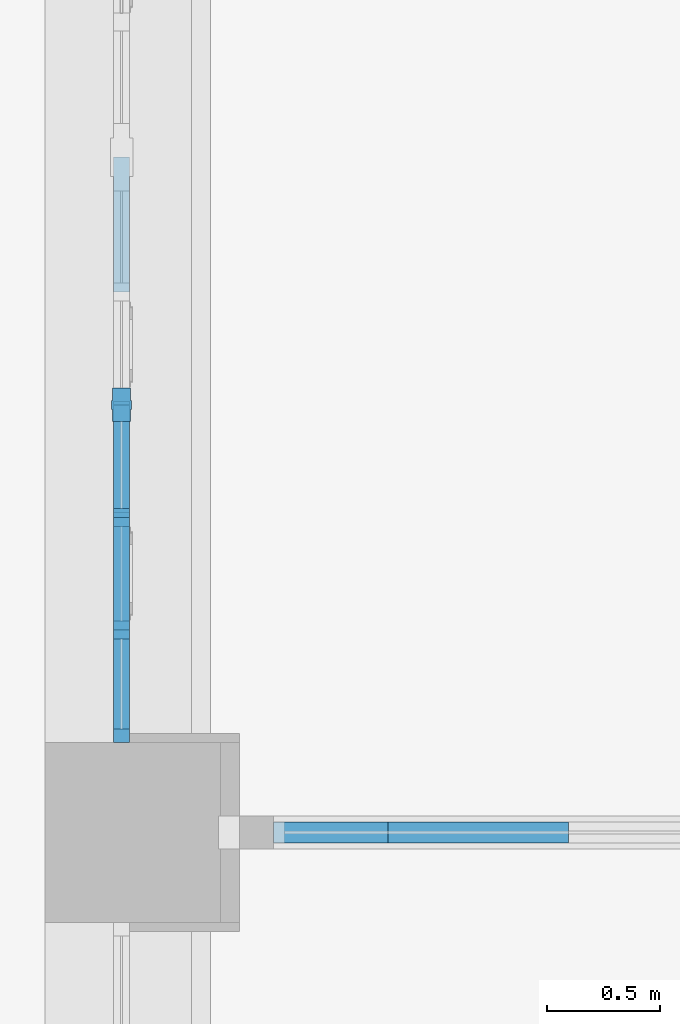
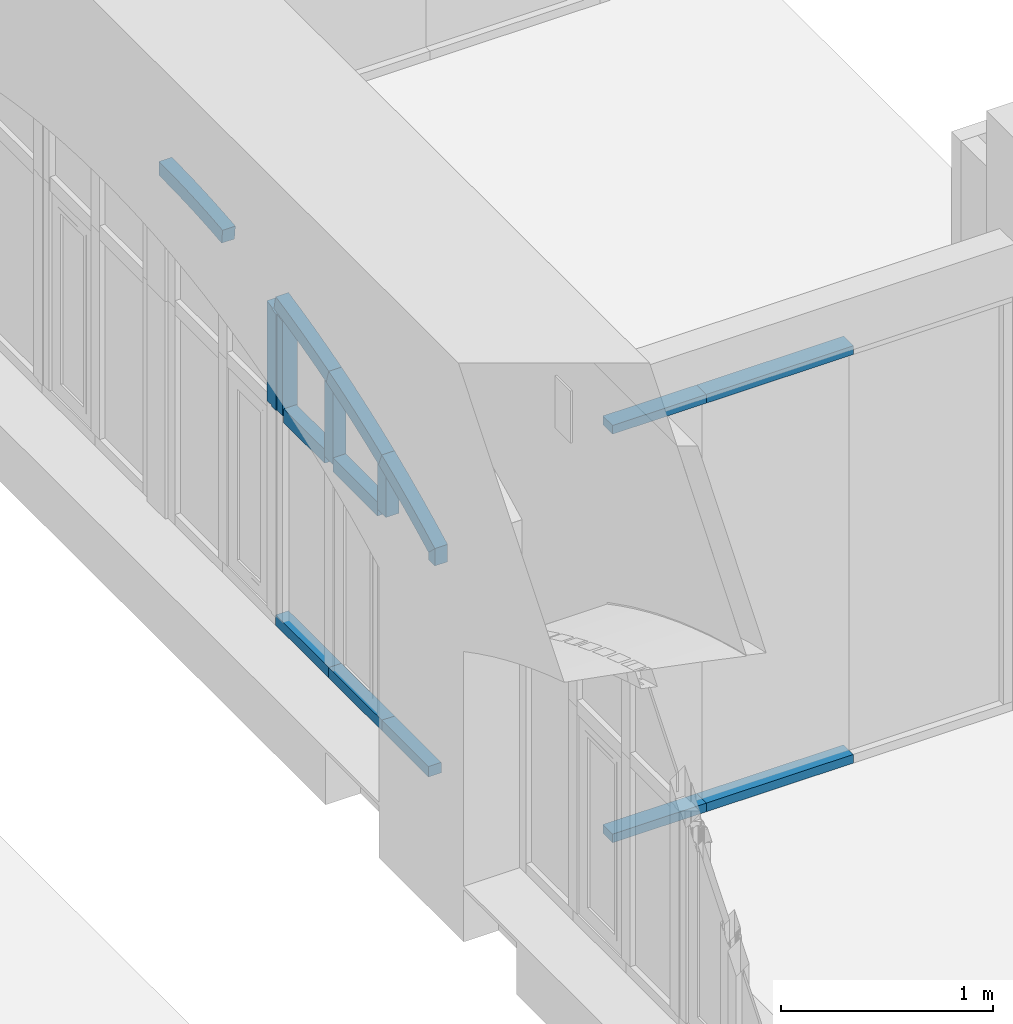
# One storey, part 24 of 88: 17 members, 2 elements without a shape of their own.
"""IFC2X3 building model written with IfcOpenShell, lengths in millimetres."""

from ifc_helpers import new_model, entity, si_unit, converted_unit, derived_unit, direction, frame, frame_2d, origin, place, context, subcontext, project, spatial, polyline, circle_curve, parameter, trimmed, segment, composite_curve, rectangle, outline, extrude, faceted_brep, source, transform, mapped, material, type_object, type_shapes, element, aggregate, save


model = new_model("IFC2X3")

# Units and contexts
model_context = context("Model", 3, precision=0.01, world=origin(), true_north=direction((6.123031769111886e-17, 1.0)))
body_context = subcontext(model_context, "Body", "Model", "MODEL_VIEW")
ifc_project = project(units=[si_unit("LENGTHUNIT", "METRE", prefix="MILLI"), si_unit("AREAUNIT", "SQUARE_METRE"), si_unit("VOLUMEUNIT", "CUBIC_METRE"), converted_unit("PLANEANGLEUNIT", "DEGREE", entity("IfcPlaneAngleMeasure", 0.017453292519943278), si_unit("PLANEANGLEUNIT", "RADIAN"), dimensions=[0, 0, 0, 0, 0, 0, 0]), si_unit("MASSUNIT", "GRAM", prefix="KILO"), derived_unit("MASSDENSITYUNIT", [(si_unit("MASSUNIT", "GRAM", prefix="KILO"), 1), (si_unit("LENGTHUNIT", "METRE"), -3)]), derived_unit("IONCONCENTRATIONUNIT", [(si_unit("MASSUNIT", "GRAM", prefix="KILO"), 1), (si_unit("LENGTHUNIT", "METRE"), -3)]), derived_unit("MOMENTOFINERTIAUNIT", [(si_unit("LENGTHUNIT", "METRE"), 4)]), si_unit("TIMEUNIT", "SECOND"), si_unit("FREQUENCYUNIT", "HERTZ"), si_unit("THERMODYNAMICTEMPERATUREUNIT", "DEGREE_CELSIUS"), derived_unit("THERMALTRANSMITTANCEUNIT", [(si_unit("MASSUNIT", "GRAM", prefix="KILO"), 1), (si_unit("THERMODYNAMICTEMPERATUREUNIT", "KELVIN"), -1), (si_unit("TIMEUNIT", "SECOND"), -3)]), derived_unit("THERMALCONDUCTANCEUNIT", [(si_unit("MASSUNIT", "GRAM", prefix="KILO"), 1), (si_unit("THERMODYNAMICTEMPERATUREUNIT", "KELVIN"), -1), (si_unit("TIMEUNIT", "SECOND"), -3), (si_unit("LENGTHUNIT", "METRE"), 1)]), derived_unit("VOLUMETRICFLOWRATEUNIT", [(si_unit("LENGTHUNIT", "METRE", prefix="DECI"), 3), (si_unit("TIMEUNIT", "SECOND"), -1)]), derived_unit("MASSFLOWRATEUNIT", [(si_unit("MASSUNIT", "GRAM", prefix="KILO"), 1), (si_unit("TIMEUNIT", "SECOND"), -1)]), derived_unit("ROTATIONALFREQUENCYUNIT", [(si_unit("TIMEUNIT", "SECOND"), -1)]), si_unit("ELECTRICCURRENTUNIT", "AMPERE"), si_unit("ELECTRICVOLTAGEUNIT", "VOLT"), si_unit("POWERUNIT", "WATT"), si_unit("FORCEUNIT", "NEWTON", prefix="KILO"), si_unit("ILLUMINANCEUNIT", "LUX"), si_unit("LUMINOUSFLUXUNIT", "LUMEN"), si_unit("LUMINOUSINTENSITYUNIT", "CANDELA"), si_unit("ENERGYUNIT", "JOULE"), derived_unit("USERDEFINED", [(si_unit("MASSUNIT", "GRAM", prefix="KILO"), -1), (si_unit("LENGTHUNIT", "METRE"), -2), (si_unit("TIMEUNIT", "SECOND"), 3), (si_unit("LUMINOUSFLUXUNIT", "LUMEN"), 1)]), derived_unit("USERDEFINED", [(si_unit("MASSUNIT", "GRAM", prefix="KILO"), 1), (si_unit("TIMEUNIT", "SECOND"), -3), (si_unit("LENGTHUNIT", "METRE"), 3), (si_unit("ELECTRICCURRENTUNIT", "AMPERE"), -2)]), derived_unit("SOUNDPOWERUNIT", [(si_unit("MASSUNIT", "GRAM", prefix="KILO"), 1), (si_unit("TIMEUNIT", "SECOND"), -3), (si_unit("LENGTHUNIT", "METRE"), 2)]), derived_unit("SOUNDPRESSUREUNIT", [(si_unit("MASSUNIT", "GRAM", prefix="KILO"), 1), (si_unit("LENGTHUNIT", "METRE"), -1), (si_unit("TIMEUNIT", "SECOND"), -2)]), derived_unit("LINEARVELOCITYUNIT", [(si_unit("LENGTHUNIT", "METRE"), 1), (si_unit("TIMEUNIT", "SECOND"), -1)]), si_unit("PRESSUREUNIT", "PASCAL"), derived_unit("USERDEFINED", [(si_unit("MASSUNIT", "GRAM", prefix="KILO"), 1), (si_unit("LENGTHUNIT", "METRE"), -2), (si_unit("TIMEUNIT", "SECOND"), -2)]), derived_unit("LINEARFORCEUNIT", [(si_unit("MASSUNIT", "GRAM", prefix="KILO"), 1), (si_unit("TIMEUNIT", "SECOND"), -2)]), derived_unit("PLANARFORCEUNIT", [(si_unit("MASSUNIT", "GRAM", prefix="KILO"), 1), (si_unit("LENGTHUNIT", "METRE"), -1), (si_unit("TIMEUNIT", "SECOND"), -2)]), derived_unit("SPECIFICHEATCAPACITYUNIT", [(si_unit("THERMODYNAMICTEMPERATUREUNIT", "KELVIN"), -1), (si_unit("LENGTHUNIT", "METRE"), 2), (si_unit("TIMEUNIT", "SECOND"), -2)]), derived_unit("HEATFLUXDENSITYUNIT", [(si_unit("MASSUNIT", "GRAM", prefix="KILO"), 1), (si_unit("TIMEUNIT", "SECOND"), -3)]), derived_unit("HEATINGVALUEUNIT", [(si_unit("LENGTHUNIT", "METRE"), 2), (si_unit("TIMEUNIT", "SECOND"), -2)]), derived_unit("VAPORPERMEABILITYUNIT", [(si_unit("LENGTHUNIT", "METRE"), -1), (si_unit("TIMEUNIT", "SECOND"), 1)]), derived_unit("DYNAMICVISCOSITYUNIT", [(si_unit("MASSUNIT", "GRAM", prefix="KILO"), 1), (si_unit("TIMEUNIT", "SECOND"), -1), (si_unit("LENGTHUNIT", "METRE"), -1)]), derived_unit("THERMALEXPANSIONCOEFFICIENTUNIT", [(si_unit("THERMODYNAMICTEMPERATUREUNIT", "KELVIN"), -1)]), derived_unit("MODULUSOFELASTICITYUNIT", [(si_unit("MASSUNIT", "GRAM", prefix="KILO"), 1), (si_unit("LENGTHUNIT", "METRE"), -1), (si_unit("TIMEUNIT", "SECOND"), -2)]), derived_unit("ISOTHERMALMOISTURECAPACITYUNIT", [(si_unit("MASSUNIT", "GRAM", prefix="KILO"), -1), (si_unit("LENGTHUNIT", "METRE"), 3)]), derived_unit("MOISTUREDIFFUSIVITYUNIT", [(si_unit("TIMEUNIT", "SECOND"), -1), (si_unit("LENGTHUNIT", "METRE"), 2)]), derived_unit("MASSPERLENGTHUNIT", [(si_unit("MASSUNIT", "GRAM", prefix="KILO"), 1), (si_unit("LENGTHUNIT", "METRE"), -1)]), derived_unit("THERMALRESISTANCEUNIT", [(si_unit("MASSUNIT", "GRAM", prefix="KILO"), -1), (si_unit("TIMEUNIT", "SECOND"), 3), (si_unit("THERMODYNAMICTEMPERATUREUNIT", "KELVIN"), 1)]), derived_unit("ACCELERATIONUNIT", [(si_unit("LENGTHUNIT", "METRE"), 1), (si_unit("TIMEUNIT", "SECOND"), -2)]), derived_unit("ANGULARVELOCITYUNIT", [(si_unit("TIMEUNIT", "SECOND"), -1), (si_unit("PLANEANGLEUNIT", "RADIAN"), 1)]), derived_unit("LINEARSTIFFNESSUNIT", [(si_unit("MASSUNIT", "GRAM", prefix="KILO"), 1), (si_unit("TIMEUNIT", "SECOND"), -2)]), derived_unit("WARPINGCONSTANTUNIT", [(si_unit("LENGTHUNIT", "METRE"), 6)]), derived_unit("LINEARMOMENTUNIT", [(si_unit("MASSUNIT", "GRAM", prefix="KILO"), 1), (si_unit("LENGTHUNIT", "METRE"), 1), (si_unit("TIMEUNIT", "SECOND"), -2)]), derived_unit("TORQUEUNIT", [(si_unit("MASSUNIT", "GRAM", prefix="KILO"), 1), (si_unit("LENGTHUNIT", "METRE"), 2), (si_unit("TIMEUNIT", "SECOND"), -2)])], contexts=[model_context])

# Site, building, storey
site_placement = place(None, origin())
site = spatial("IfcSite", under=ifc_project, at=site_placement, Name="Default", CompositionType="ELEMENT")
building_placement = place(site_placement, origin())
building = spatial("IfcBuilding", under=site, at=building_placement, Name="Eesti Rahvusraamatukogu hoone renoveerimise projekteerimistööd", CompositionType="ELEMENT")
storey_placement = place(building_placement, origin())
storey = spatial("IfcBuildingStorey", under=building, at=storey_placement, Name="1. korrus", CompositionType="ELEMENT", Elevation=0.0)

# Curtain wall, members
curtain_wall_type_1 = type_object("IfcCurtainWallType", Name="Curtain Wall:Ak-02", PredefinedType="NOTDEFINED")
curtain_wall_1_placement = place(storey_placement, origin())
curtain_wall_1 = element("IfcCurtainWall", 1, at=curtain_wall_1_placement, inside=storey, type_object=curtain_wall_type_1, Name="Curtain Wall:Ak-02", ObjectType="Curtain Wall:Ak-02")
ifc_material_1 = material(Name="LUMION_dark steel window frames")
member_type_1 = type_object("IfcMemberType", Name="Rectangular Mullion:NEW 80x70mm", PredefinedType="MULLION", material=ifc_material_1)
shared_shape_1 = source(origin(), body_context, "Body", "SweptSolid", [
    extrude(outline(composite_curve([segment(polyline([(-56.23219214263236, -297.82636877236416), (23.767807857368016, -297.82636877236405)]), True, "CONTINUOUS"), segment(trimmed(circle_curve(frame_2d((5464.483487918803, -297.82636877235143), x_axis=(-0.9940766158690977, 0.10868156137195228)), 5440.715680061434), [parameter(3.053332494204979e-13)], [parameter(6.2393189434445)], True, "PARAMETER"), False, "CONTINUOUS"), segment(polyline([(55.99525677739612, 293.47910631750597), (-23.53087249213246, 302.1736312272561)]), True, "CONTINUOUS"), segment(trimmed(circle_curve(frame_2d((5464.483487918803, -297.82636877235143), x_axis=(-0.9940766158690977, 0.10868156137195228)), 5520.715680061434), [parameter(3.5622212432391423e-13)], [parameter(6.2393189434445)], True, "PARAMETER"), True, "CONTINUOUS")], self_intersect=False)), frame((-56.23219214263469, -35.0, -297.82636877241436), z_axis=(0.0, 1.0, 0.0), x_axis=(-0.9940766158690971, 0.0, 0.10868156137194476)), (0.0, 0.0, 1.0), 69.99999999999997),
])
type_shapes(member_type_1, [shared_shape_1])
member_1_placement = place(curtain_wall_1_placement, frame((-36440.0, 14790.0, 3937.870459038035), z_axis=(0.0, -0.9940766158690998, -0.10868156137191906), x_axis=(0.0, -0.10868156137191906, 0.9940766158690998)))
member_1 = element("IfcMember", 2, at=member_1_placement, type_object=member_type_1, material=ifc_material_1, Name="Rectangular Mullion:NEW 80x70mm", ObjectType="Rectangular Mullion:NEW 80x70mm", context=body_context, shape_type="MappedRepresentation", body=[
    mapped(shared_shape_1, transform((0.0, 0.0, 0.0), scale=1.0)),
])
member_type_2 = type_object("IfcMemberType", Name="Rectangular Mullion:NEW 80x70mm", PredefinedType="MULLION", material=ifc_material_1)
shared_shape_2 = source(origin(), body_context, "Body", "SweptSolid", [
    extrude(outline(composite_curve([segment(polyline([(-51.95542765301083, -255.69780513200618), (28.044572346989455, -255.69780513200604)]), True, "CONTINUOUS"), segment(trimmed(circle_curve(frame_2d((5468.760252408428, -255.6978051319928), x_axis=(-0.9956372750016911, 0.09330818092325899)), 5440.715680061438), [parameter(3.5622212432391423e-13)], [parameter(5.353953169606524)], True, "PARAMETER"), False, "CONTINUOUS"), segment(polyline([(51.78091865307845, 251.96547789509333), (-27.870063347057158, 259.4301323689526)]), True, "CONTINUOUS"), segment(trimmed(circle_curve(frame_2d((5468.760252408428, -255.6978051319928), x_axis=(-0.9956372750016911, 0.09330818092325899)), 5520.715680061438), [parameter(3.5622212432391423e-13)], [parameter(5.353953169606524)], True, "PARAMETER"), True, "CONTINUOUS")], self_intersect=False)), frame((-51.9554276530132, -35.0, -255.6978051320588), z_axis=(0.0, 1.0, 0.0), x_axis=(-0.9956372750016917, 0.0, 0.09330818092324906)), (0.0, 0.0, 1.0), 70.00000000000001),
])
type_shapes(member_type_2, [shared_shape_2])
member_2_placement = place(curtain_wall_1_placement, frame((-36440.0, 13790.0, 3733.633310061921), z_axis=(0.0, -0.9570819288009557, -0.2898174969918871), x_axis=(0.0, -0.2898174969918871, 0.9570819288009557)))
member_2 = element("IfcMember", 3, at=member_2_placement, type_object=member_type_2, material=ifc_material_1, Name="Rectangular Mullion:NEW 80x70mm", ObjectType="Rectangular Mullion:NEW 80x70mm", context=body_context, shape_type="MappedRepresentation", body=[
    mapped(shared_shape_2, transform((0.0, 0.0, 0.0), scale=1.0)),
])
member_type_3 = type_object("IfcMemberType", Name="Rectangular Mullion:NEW 80x70mm", PredefinedType="MULLION", material=ifc_material_1)
shared_shape_3 = source(origin(), body_context, "Body", "SweptSolid", [
    extrude(outline(composite_curve([segment(polyline([(-52.66438607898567, -263.1530214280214), (27.33561392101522, -263.1530214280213)]), True, "CONTINUOUS"), segment(trimmed(circle_curve(frame_2d((5468.05129398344, -263.15302142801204), x_axis=(-0.9953785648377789, 0.09602870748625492)), 5440.715680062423), [parameter(3.5622212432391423e-13)], [parameter(5.510531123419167)], True, "PARAMETER"), False, "CONTINUOUS"), segment(polyline([(52.47952867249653, 259.31187312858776), (-27.150756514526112, 266.99416972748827)]), True, "CONTINUOUS"), segment(trimmed(circle_curve(frame_2d((5468.05129398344, -263.15302142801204), x_axis=(-0.9953785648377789, 0.09602870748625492)), 5520.715680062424), [parameter(3.5622212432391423e-13)], [parameter(5.510531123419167)], True, "PARAMETER"), True, "CONTINUOUS")], self_intersect=False)), frame((-52.66438607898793, -35.0, -263.1530214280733), z_axis=(0.0, 1.0, 0.0), x_axis=(-0.9953785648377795, 0.0, 0.09602870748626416)), (0.0, 0.0, 1.0), 70.0),
])
type_shapes(member_type_3, [shared_shape_3])
member_3_placement = place(curtain_wall_1_placement, frame((-36440.0, 13290.0, 3555.5687442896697), z_axis=(0.0, -0.9248280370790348, -0.3803854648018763), x_axis=(0.0, -0.3803854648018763, 0.9248280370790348)))
member_3 = element("IfcMember", 4, at=member_3_placement, type_object=member_type_3, material=ifc_material_1, Name="Rectangular Mullion:NEW 80x70mm", ObjectType="Rectangular Mullion:NEW 80x70mm", context=body_context, shape_type="MappedRepresentation", body=[
    mapped(shared_shape_3, transform((0.0, 0.0, 0.0), scale=1.0)),
])
member_type_4 = type_object("IfcMemberType", Name="Rectangular Mullion:NEW 80x70mm", PredefinedType="MULLION", material=ifc_material_1)
shared_shape_4 = source(origin(), body_context, "Body", "SweptSolid", [
    extrude(outline(composite_curve([segment(polyline([(-53.11529804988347, -267.70979815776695), (26.884701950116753, -267.709798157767)]), True, "CONTINUOUS"), segment(trimmed(circle_curve(frame_2d((5467.600382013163, -267.70979815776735), x_axis=(-0.9949883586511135, 0.0999908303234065)), 5440.7156800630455), [parameter(0.26669094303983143)], [parameter(5.738642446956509)], True, "PARAMETER"), False, "CONTINUOUS"), segment(polyline([(51.67804717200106, 251.10844964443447), (-25.447451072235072, 284.3111466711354)]), True, "CONTINUOUS"), segment(trimmed(circle_curve(frame_2d((5467.600382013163, -267.70979815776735), x_axis=(-0.9949883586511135, 0.0999908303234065)), 5520.7156800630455), [parameter(3.5622212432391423e-13)], [parameter(5.738642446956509)], True, "PARAMETER"), True, "CONTINUOUS")], self_intersect=False)), frame((-53.748425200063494, -35.0, -280.34176941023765), z_axis=(0.0, 1.0, 0.0), x_axis=(-0.9949883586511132, 0.0, 0.0999908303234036)), (0.0, 0.0, 1.0), 69.99999999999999),
])
type_shapes(member_type_4, [shared_shape_4])
member_4_placement = place(curtain_wall_1_placement, frame((-36440.0, 12790.0, 3320.0), z_axis=(0.0, -0.8821580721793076, -0.4709534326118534), x_axis=(0.0, -0.4709534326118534, 0.8821580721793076)))
member_4 = element("IfcMember", 5, at=member_4_placement, type_object=member_type_4, material=ifc_material_1, Name="Rectangular Mullion:NEW 80x70mm", ObjectType="Rectangular Mullion:NEW 80x70mm", context=body_context, shape_type="MappedRepresentation", body=[
    mapped(shared_shape_4, transform((0.0, 0.0, 0.0), scale=1.0)),
])
member_type_5 = type_object("IfcMemberType", Name="Rectangular Mullion:NEW 150x90mm", PredefinedType="MULLION", material=ifc_material_1)
shared_shape_5 = source(origin(), body_context, "Body", "Brep", [
    faceted_brep([(-20.0, -40.0, 0.0), (-20.0, -45.0, 0.0), (20.0, -45.0, 0.0), (20.0, -40.0, 0.0), (75.0, -40.0, 0.0), (75.0, 40.0, 0.0), (20.0, 40.0, 0.0), (20.0, 45.0, 0.0), (-20.0, 45.0, 0.0), (-20.0, 40.0, 0.0), (-75.0, 40.0, 0.0), (-75.0, -40.0, 0.0), (-20.0, 40.0, -562.3027332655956), (-47.48603249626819, 40.0, -567.7959127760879), (-75.0, 40.0, -573.1474168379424), (75.0, 40.0, -542.1778237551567), (47.51534075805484, 40.0, -548.1824945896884), (20.0, 40.0, -554.044967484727), (-75.0, -40.0, -573.1474168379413), (-47.48603249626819, -40.0, -567.7959127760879), (-20.0, -40.0, -562.3027332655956), (20.0, -40.0, -554.0449674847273), (47.51534075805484, -40.0, -548.1824945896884), (75.0, -40.0, -542.1778237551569), (-20.0, -45.0, -562.3027332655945), (-20.0, 45.0, -562.3027332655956), (-17.969902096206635, -45.0, -561.891167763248), (-15.939962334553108, -45.0, -561.4788296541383), (2.036281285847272, -45.0, -557.7922042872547), (20.0, -45.0, -554.044967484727), (20.0, 45.0, -554.0449674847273), (2.0362812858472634, 45.0, -557.7922042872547), (-15.939962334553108, 45.0, -561.4788296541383), (-17.969902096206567, 45.0, -561.8911677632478), (-15.939962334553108, -33.75000000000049, -561.4788296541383), (-15.939962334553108, -22.50000000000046, -561.4788296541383), (-15.939962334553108, 33.7499999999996, -561.4788296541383), (-15.939962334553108, 22.49999999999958, -561.4788296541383), (-15.939962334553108, 0.0, -561.4788296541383)], [[[0, 1, 2, 3, 4, 5, 6, 7, 8, 9, 10, 11]], [[10, 9, 12, 13, 14]], [[6, 5, 15, 16, 17]], [[11, 10, 14, 18]], [[0, 11, 18, 19, 20]], [[4, 3, 21, 22, 23]], [[1, 0, 20, 24]], [[9, 8, 25, 12]], [[1, 24, 26, 27, 28, 29, 2]], [[3, 2, 29, 21]], [[7, 6, 17, 30]], [[5, 4, 23, 15]], [[7, 30, 31, 32, 33, 25, 8]], [[26, 20, 27]], [[34, 27, 20, 35]], [[12, 32, 36, 37]], [[12, 33, 32]], [[12, 25, 33]], [[20, 26, 24]], [[38, 35, 19, 13, 37]], [[19, 35, 20]], [[13, 19, 18, 14]], [[12, 37, 13]], [[15, 23, 22, 16]], [[16, 22, 21, 17]], [[21, 29, 28, 31, 30, 17]], [[31, 28, 27, 34, 35, 38, 37, 36, 32]]]),
])
type_shapes(member_type_5, [shared_shape_5])
member_5_placement = place(curtain_wall_1_placement, frame((-36440.0, 14290.0, 3220.0), z_axis=(0.0, 0.0, -1.0), x_axis=(0.0, -1.0, 0.0)))
member_5 = element("IfcMember", 6, at=member_5_placement, type_object=member_type_5, material=ifc_material_1, Name="Rectangular Mullion:NEW 150x90mm", ObjectType="Rectangular Mullion:NEW 150x90mm", context=body_context, shape_type="MappedRepresentation", body=[
    mapped(shared_shape_5, transform((0.0, 0.0, 0.0), scale=1.0)),
])
member_type_6 = type_object("IfcMemberType", Name="Rectangular Mullion:NEW 80x70mm", PredefinedType="MULLION", material=ifc_material_1)
shared_shape_6 = source(origin(), body_context, "Body", "SweptSolid", [
    extrude(outline(composite_curve([segment(polyline([(-259.341776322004, -44.637079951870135), (158.1715113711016, -44.637079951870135)]), True, "CONTINUOUS"), segment(trimmed(circle_curve(frame_2d((-5029.485677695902, 1595.362920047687), x_axis=(0.9248280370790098, -0.3803854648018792)), 5440.715680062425), [parameter(4.8139927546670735)], [parameter(5.510531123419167)], True, "PARAMETER"), True, "CONTINUOUS"), segment(trimmed(circle_curve(frame_2d((-5029.48567769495, 1595.3629200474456), x_axis=(0.9570819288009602, -0.28981749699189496)), 5440.715680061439), [parameter(0.0)], [parameter(0.18492371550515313)], True, "PARAMETER"), True, "CONTINUOUS"), segment(polyline([(182.78706183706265, 35.36292004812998), (-259.341776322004, 35.362920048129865)]), True, "CONTINUOUS"), segment(polyline([(-259.341776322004, 35.362920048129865), (-259.341776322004, -44.637079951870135)]), True, "CONTINUOUS")], self_intersect=False)), frame((-4.637079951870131, -35.0, -259.341776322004), z_axis=(0.0, 1.0, 0.0), x_axis=(0.0, 0.0, -1.0)), (0.0, 0.0, 1.0), 69.99999999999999),
])
type_shapes(member_type_6, [shared_shape_6])
member_6_placement = place(curtain_wall_1_placement, frame((-36440.0, 13790.0, 3220.0), z_axis=(0.0, 0.0, -1.0), x_axis=(0.0, -1.0, 0.0)))
member_6 = element("IfcMember", 7, at=member_6_placement, type_object=member_type_6, material=ifc_material_1, Name="Rectangular Mullion:NEW 80x70mm", ObjectType="Rectangular Mullion:NEW 80x70mm", context=body_context, shape_type="MappedRepresentation", body=[
    mapped(shared_shape_6, transform((0.0, 0.0, 0.0), scale=1.0)),
])
member_type_7 = type_object("IfcMemberType", Name="Rectangular Mullion:NEW 80x70mm", PredefinedType="MULLION", material=ifc_material_1)
shared_shape_7 = source(origin(), body_context, "Body", "SweptSolid", [
    extrude(outline(composite_curve([segment(polyline([(-151.8249085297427, -46.086167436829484), (80.20942675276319, -46.086167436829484)]), True, "CONTINUOUS"), segment(trimmed(circle_curve(frame_2d((-4921.968809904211, 2093.913832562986), x_axis=(0.8821580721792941, -0.47095343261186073)), 5440.7156800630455), [parameter(4.934304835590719)], [parameter(5.738642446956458)], True, "PARAMETER"), True, "CONTINUOUS"), segment(trimmed(circle_curve(frame_2d((-4921.968809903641, 2093.9138325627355), x_axis=(0.9248280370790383, -0.3803854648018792)), 5440.715680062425), [parameter(0.0)], [parameter(0.1089206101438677)], True, "PARAMETER"), True, "CONTINUOUS"), segment(polyline([(113.68279751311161, 33.91383256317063), (-151.8249085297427, 33.913832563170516)]), True, "CONTINUOUS"), segment(polyline([(-151.8249085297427, 33.913832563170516), (-151.8249085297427, -46.086167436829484)]), True, "CONTINUOUS")], self_intersect=False)), frame((-6.086167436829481, -35.0, -151.8249085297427), z_axis=(0.0, 1.0, 0.0), x_axis=(0.0, 0.0, -1.0)), (0.0, 0.0, 1.0), 70.00000000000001),
])
type_shapes(member_type_7, [shared_shape_7])
member_7_placement = place(curtain_wall_1_placement, frame((-36440.0, 13290.0, 3220.0), z_axis=(0.0, 0.0, -1.0), x_axis=(0.0, -1.0, 0.0)))
member_7 = element("IfcMember", 8, at=member_7_placement, type_object=member_type_7, material=ifc_material_1, Name="Rectangular Mullion:NEW 80x70mm", ObjectType="Rectangular Mullion:NEW 80x70mm", context=body_context, shape_type="MappedRepresentation", body=[
    mapped(shared_shape_7, transform((0.0, 0.0, 0.0), scale=1.0)),
])
member_type_8 = type_object("IfcMemberType", Name="Rectangular Mullion:NEW 80x70mm", PredefinedType="MULLION", material=ifc_material_1)
shared_shape_8 = source(origin(), body_context, "Body", "SweptSolid", [
    extrude(rectangle(XDim=80.0, YDim=70.0, at=frame_2d((0.0, -3.552713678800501e-15), x_axis=(1.0, 0.0))), frame((0.0, 0.0, -420.0), z_axis=(0.0, 0.0, 1.0), x_axis=(-1.0, 0.0, 0.0)), (0.0, 0.0, 1.0), 419.999999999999),
])
type_shapes(member_type_8, [shared_shape_8])
member_8_placement = place(curtain_wall_1_placement, frame((-36440.0, 13330.0, 3220.0), z_axis=(0.0, -1.0, 0.0), x_axis=(0.0, 0.0, 1.0)))
member_8 = element("IfcMember", 9, at=member_8_placement, type_object=member_type_8, material=ifc_material_1, Name="Rectangular Mullion:NEW 80x70mm", ObjectType="Rectangular Mullion:NEW 80x70mm", context=body_context, shape_type="MappedRepresentation", body=[
    mapped(shared_shape_8, transform((0.0, 0.0, 0.0), scale=1.0)),
])
member_type_9 = type_object("IfcMemberType", Name="Rectangular Mullion:NEW 80x70mm", PredefinedType="MULLION", material=ifc_material_1)
shared_shape_9 = source(origin(), body_context, "Body", "SweptSolid", [
    extrude(rectangle(XDim=80.0, YDim=70.0, at=frame_2d((0.0, -3.552713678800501e-15), x_axis=(1.0, 0.0))), frame((0.0, 0.0, -385.0), z_axis=(0.0, 0.0, 1.0), x_axis=(-1.0, 0.0, 0.0)), (0.0, 0.0, 1.0), 384.99999999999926),
])
type_shapes(member_type_9, [shared_shape_9])
member_9_placement = place(curtain_wall_1_placement, frame((-36440.0, 13830.0, 3220.0), z_axis=(0.0, -1.0, 0.0), x_axis=(0.0, 0.0, 1.0)))
member_9 = element("IfcMember", 10, at=member_9_placement, type_object=member_type_9, material=ifc_material_1, Name="Rectangular Mullion:NEW 80x70mm", ObjectType="Rectangular Mullion:NEW 80x70mm", context=body_context, shape_type="MappedRepresentation", body=[
    mapped(shared_shape_9, transform((0.0, 0.0, 0.0), scale=1.0)),
])
member_type_10 = type_object("IfcMemberType", Name="Rectangular Mullion:NEW 60x70mm", PredefinedType="MULLION", material=ifc_material_1)
shared_shape_10 = source(origin(), body_context, "Body", "SweptSolid", [
    extrude(rectangle(XDim=60.0, YDim=70.0, at=frame_2d((0.0, 3.552713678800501e-15), x_axis=(1.0, 0.0))), frame((-30.0, 0.0, -500.0), z_axis=(0.0, 0.0, 1.0), x_axis=(-1.0, 0.0, 0.0)), (0.0, 0.0, 1.0), 499.999999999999),
])
type_shapes(member_type_10, [shared_shape_10])
member_10_placement = place(curtain_wall_1_placement, frame((-36440.0, 14290.0, 1970.0), z_axis=(0.0, 1.0, 0.0), x_axis=(0.0, 0.0, -1.0)))
member_10 = element("IfcMember", 11, at=member_10_placement, type_object=member_type_10, material=ifc_material_1, Name="Rectangular Mullion:NEW 60x70mm", ObjectType="Rectangular Mullion:NEW 60x70mm", context=body_context, shape_type="MappedRepresentation", body=[
    mapped(shared_shape_10, transform((0.0, 0.0, 0.0), scale=1.0)),
])
member_11_placement = place(curtain_wall_1_placement, frame((-36440.0, 13790.0, 1970.0), z_axis=(0.0, 1.0, 0.0), x_axis=(0.0, 0.0, -1.0)))
member_11 = element("IfcMember", 12, at=member_11_placement, type_object=member_type_10, material=ifc_material_1, Name="Rectangular Mullion:NEW 60x70mm", ObjectType="Rectangular Mullion:NEW 60x70mm", context=body_context, shape_type="MappedRepresentation", body=[
    mapped(shared_shape_10, transform((0.0, 0.0, 0.0), scale=1.0)),
])
member_type_11 = type_object("IfcMemberType", Name="Rectangular Mullion:NEW 60x70mm", PredefinedType="MULLION", material=ifc_material_1)
shared_shape_11 = source(origin(), body_context, "Body", "SweptSolid", [
    extrude(rectangle(XDim=60.0, YDim=70.0, at=frame_2d((0.0, 3.552713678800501e-15), x_axis=(1.0, 0.0))), frame((-30.0, 0.0, -440.0), z_axis=(0.0, 0.0, 1.0), x_axis=(-1.0, 0.0, 0.0)), (0.0, 0.0, 1.0), 439.9999999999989),
])
type_shapes(member_type_11, [shared_shape_11])
member_12_placement = place(curtain_wall_1_placement, frame((-36440.0, 13290.0, 1970.0), z_axis=(0.0, 1.0, 0.0), x_axis=(0.0, 0.0, -1.0)))
member_12 = element("IfcMember", 13, at=member_12_placement, type_object=member_type_11, material=ifc_material_1, Name="Rectangular Mullion:NEW 60x70mm", ObjectType="Rectangular Mullion:NEW 60x70mm", context=body_context, shape_type="MappedRepresentation", body=[
    mapped(shared_shape_11, transform((0.0, 0.0, 0.0), scale=1.0)),
])
member_type_12 = type_object("IfcMemberType", Name="Rectangular Mullion:NEW 60x70mm", PredefinedType="MULLION", material=ifc_material_1)
shared_shape_12 = source(origin(), body_context, "Body", "SweptSolid", [
    extrude(outline(polyline([(-35.33630318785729, -30.0), (64.6636968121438, -30.0), (6.008909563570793, 30.0), (-35.33630318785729, 30.0), (-35.33630318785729, -30.0)])), frame((-30.0, -35.0, -35.33630318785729), z_axis=(0.0, 1.0, 0.0), x_axis=(0.0, 0.0, -1.0)), (0.0, 0.0, 1.0), 69.99999999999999),
])
type_shapes(member_type_12, [shared_shape_12])
member_13_placement = place(curtain_wall_1_placement, frame((-36440.0, 12790.0, 3220.0), z_axis=(0.0, 0.0, -1.0), x_axis=(0.0, -1.0, 0.0)))
member_13 = element("IfcMember", 14, at=member_13_placement, type_object=member_type_12, material=ifc_material_1, Name="Rectangular Mullion:NEW 60x70mm", ObjectType="Rectangular Mullion:NEW 60x70mm", context=body_context, shape_type="MappedRepresentation", body=[
    mapped(shared_shape_12, transform((0.0, 0.0, 0.0), scale=1.0)),
])
aggregate(curtain_wall_1, [member_1, member_2, member_3, member_4, member_5, member_6, member_7, member_9, member_8, member_10, member_11, member_12, member_13])

curtain_wall_type_2 = type_object("IfcCurtainWallType", Name="Curtain Wall:VLS Klaasvahesein profiilita 38db", PredefinedType="NOTDEFINED")
curtain_wall_2_placement = place(storey_placement, origin())
curtain_wall_2 = element("IfcCurtainWall", 15, at=curtain_wall_2_placement, inside=storey, type_object=curtain_wall_type_2, Name="Curtain Wall:VLS Klaasvahesein profiilita 38db", ObjectType="Curtain Wall:VLS Klaasvahesein profiilita 38db")
ifc_material_2 = material(Name="Aluminum")
member_type_13 = type_object("IfcMemberType", Name="Rectangular Mullion:50mm x 92mm", PredefinedType="MULLION", material=ifc_material_2)
shared_shape_13 = source(origin(), body_context, "Body", "SweptSolid", [
    extrude(rectangle(XDim=50.0, YDim=92.0, at=frame_2d((0.0, 3.552713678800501e-15), x_axis=(1.0, 0.0))), frame((-25.0, 0.0, -510.0), z_axis=(0.0, 0.0, 1.0), x_axis=(-1.0, 0.0, 0.0)), (0.0, 0.0, 1.0), 509.99999999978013),
])
type_shapes(member_type_13, [shared_shape_13])
member_14_placement = place(curtain_wall_2_placement, frame((-35765.49999999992, 12390.0, 4050.0), z_axis=(-1.0, 0.0, 0.0), x_axis=(0.0, 0.0, 1.0)))
member_14 = element("IfcMember", 16, at=member_14_placement, type_object=member_type_13, material=ifc_material_2, Name="Rectangular Mullion:50mm x 92mm", ObjectType="Rectangular Mullion:50mm x 92mm", context=body_context, shape_type="MappedRepresentation", body=[
    mapped(shared_shape_13, transform((0.0, 0.0, 0.0), scale=1.0)),
])
member_type_14 = type_object("IfcMemberType", Name="Rectangular Mullion:50mm x 92mm", PredefinedType="MULLION", material=ifc_material_2)
shared_shape_14 = source(origin(), body_context, "Body", "SweptSolid", [
    extrude(rectangle(XDim=50.0, YDim=92.0, at=frame_2d((0.0, 3.552713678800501e-15), x_axis=(1.0, 0.0))), frame((-25.0, 0.0, -800.0), z_axis=(0.0, 0.0, 1.0), x_axis=(-1.0, 0.0, 0.0)), (0.0, 0.0, 1.0), 800.0000000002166),
])
type_shapes(member_type_14, [shared_shape_14])
member_15_placement = place(curtain_wall_2_placement, frame((-35255.50000000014, 12390.0, 4050.0), z_axis=(-1.0, 0.0, 0.0), x_axis=(0.0, 0.0, 1.0)))
member_15 = element("IfcMember", 17, at=member_15_placement, type_object=member_type_14, material=ifc_material_2, Name="Rectangular Mullion:50mm x 92mm", ObjectType="Rectangular Mullion:50mm x 92mm", context=body_context, shape_type="MappedRepresentation", body=[
    mapped(shared_shape_14, transform((0.0, 0.0, 0.0), scale=1.0)),
])
member_type_15 = type_object("IfcMemberType", Name="Rectangular Mullion:50mm x 92mm", PredefinedType="MULLION", material=ifc_material_2)
shared_shape_15 = source(origin(), body_context, "Body", "SweptSolid", [
    extrude(rectangle(XDim=50.0, YDim=92.0, at=frame_2d((0.0, 3.552713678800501e-15), x_axis=(1.0, 0.0))), frame((-25.0, 0.0, -510.0), z_axis=(0.0, 0.0, 1.0), x_axis=(-1.0, 0.0, 0.0)), (0.0, 0.0, 1.0), 509.99999999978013),
])
type_shapes(member_type_15, [shared_shape_15])
member_16_placement = place(curtain_wall_2_placement, frame((-35255.50000000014, 12390.0, 1650.0), z_axis=(1.0, 0.0, 0.0), x_axis=(0.0, 0.0, -1.0)))
member_16 = element("IfcMember", 18, at=member_16_placement, type_object=member_type_15, material=ifc_material_2, Name="Rectangular Mullion:50mm x 92mm", ObjectType="Rectangular Mullion:50mm x 92mm", context=body_context, shape_type="MappedRepresentation", body=[
    mapped(shared_shape_15, transform((0.0, 0.0, 0.0), scale=1.0)),
])
member_type_16 = type_object("IfcMemberType", Name="Rectangular Mullion:50mm x 92mm", PredefinedType="MULLION", material=ifc_material_2)
shared_shape_16 = source(origin(), body_context, "Body", "SweptSolid", [
    extrude(rectangle(XDim=50.0, YDim=92.0, at=frame_2d((0.0, 3.552713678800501e-15), x_axis=(1.0, 0.0))), frame((-25.0, 0.0, -800.0), z_axis=(0.0, 0.0, 1.0), x_axis=(-1.0, 0.0, 0.0)), (0.0, 0.0, 1.0), 800.0000000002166),
])
type_shapes(member_type_16, [shared_shape_16])
member_17_placement = place(curtain_wall_2_placement, frame((-34455.49999999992, 12390.0, 1650.0), z_axis=(1.0, 0.0, 0.0), x_axis=(0.0, 0.0, -1.0)))
member_17 = element("IfcMember", 19, at=member_17_placement, type_object=member_type_16, material=ifc_material_2, Name="Rectangular Mullion:50mm x 92mm", ObjectType="Rectangular Mullion:50mm x 92mm", context=body_context, shape_type="MappedRepresentation", body=[
    mapped(shared_shape_16, transform((0.0, 0.0, 0.0), scale=1.0)),
])
aggregate(curtain_wall_2, [member_14, member_15, member_16, member_17])

save(model, "model.ifc")
